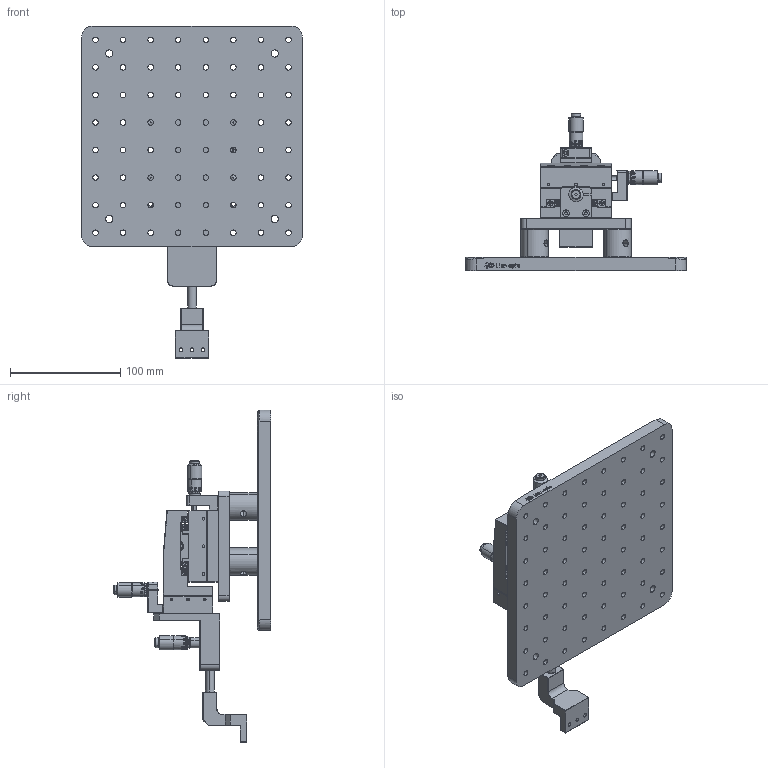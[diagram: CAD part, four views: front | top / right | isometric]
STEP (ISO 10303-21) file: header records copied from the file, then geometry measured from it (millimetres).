
FILE_DESCRIPTION (( 'STEP AP203' ), '1' );
FILE_NAME ('扞け釱拸棠郪磁.STEP', '2026-09-30T07:04:53', ( '' ), ( '' ), 'SwSTEP 2.0', 'SolidWorks 2024', '' );
FILE_SCHEMA (( 'CONFIG_CONTROL_DESIGN' ));
Products named in the file (1): 射频座无磁组合
Bounding box: 200 x 142.7 x 301.11 mm (x, y, z)
Surface area: 203709.1 mm2 (no closed solid volume)
Topology: 0 solids, 148 shells, 1198 faces, 6877 edges, 5641 vertices
Faces by surface type: plane 498, cylinder 416, cone 265, torus 13, bspline 6
Entity records: 94652 total; most frequent: CARTESIAN_POINT 44607, DIRECTION 9521, ORIENTED_EDGE 9017, EDGE_CURVE 6877, VERTEX_POINT 5641, AXIS2_PLACEMENT_3D 3283, VECTOR 2955, LINE 2955
